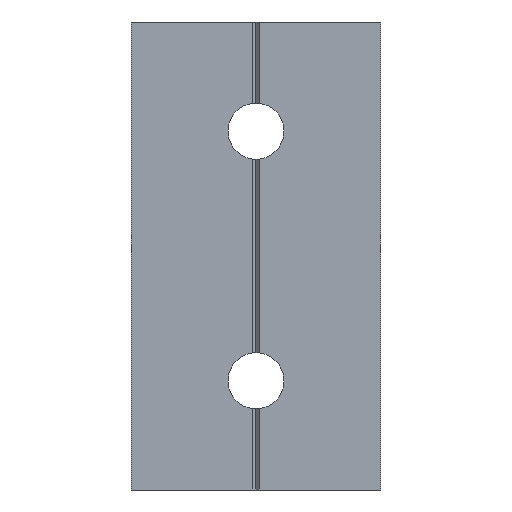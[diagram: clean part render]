
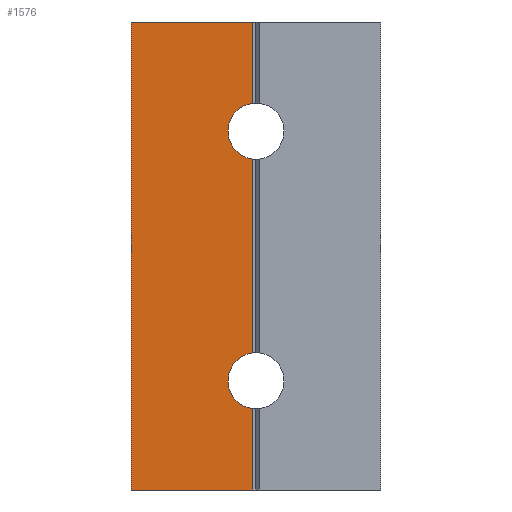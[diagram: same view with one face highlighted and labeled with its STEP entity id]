
A CAD part, left-side view. The second image highlights one B-rep face of the part: STEP entity #1576.
In plain terms, the highlighted planar face has unit normal (-1, 0, 0).
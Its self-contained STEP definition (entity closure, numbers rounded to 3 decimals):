
#1 = EDGE_CURVE ( 'NONE', #539, #1569, #1201, .T. ) ;
#20 = EDGE_CURVE ( 'NONE', #173, #957, #944, .T. ) ;
#57 = CARTESIAN_POINT ( 'NONE',  ( -20., 0.5, 25. ) ) ;
#64 = DIRECTION ( 'NONE',  ( 0., 0., -1. ) ) ;
#70 = CIRCLE ( 'NONE', #1568, 4.5 ) ;
#79 = DIRECTION ( 'NONE',  ( 0., 0., -1. ) ) ;
#96 = DIRECTION ( 'NONE',  ( 0., 0., -1. ) ) ;
#115 = ORIENTED_EDGE ( 'NONE', *, *, #1, .F. ) ;
#116 = CARTESIAN_POINT ( 'NONE',  ( -20., 0.5, 25. ) ) ;
#119 = VECTOR ( 'NONE', #64, 1000. ) ;
#123 = EDGE_LOOP ( 'NONE', ( #844, #308, #1067, #1158, #180, #561, #928, #115 ) ) ;
#126 = VERTEX_POINT ( 'NONE', #281 ) ;
#164 = DIRECTION ( 'NONE',  ( 0., 1., 0. ) ) ;
#173 = VERTEX_POINT ( 'NONE', #780 ) ;
#180 = ORIENTED_EDGE ( 'NONE', *, *, #1186, .F. ) ;
#192 = LINE ( 'NONE', #57, #1336 ) ;
#201 = VERTEX_POINT ( 'NONE', #803 ) ;
#243 = CARTESIAN_POINT ( 'NONE',  ( -20., 20., 25. ) ) ;
#252 = VERTEX_POINT ( 'NONE', #1232 ) ;
#281 = CARTESIAN_POINT ( 'NONE',  ( -20., 0.5, 25. ) ) ;
#288 = CARTESIAN_POINT ( 'NONE',  ( -20., 20., -50. ) ) ;
#308 = ORIENTED_EDGE ( 'NONE', *, *, #901, .F. ) ;
#315 = AXIS2_PLACEMENT_3D ( 'NONE', #1022, #627, #1137 ) ;
#321 = EDGE_CURVE ( 'NONE', #1235, #201, #614, .T. ) ;
#376 = DIRECTION ( 'NONE',  ( 0., -1., 0. ) ) ;
#406 = LINE ( 'NONE', #437, #119 ) ;
#437 = CARTESIAN_POINT ( 'NONE',  ( -20., 0.5, 25. ) ) ;
#539 = VERTEX_POINT ( 'NONE', #1034 ) ;
#561 = ORIENTED_EDGE ( 'NONE', *, *, #321, .F. ) ;
#601 = DIRECTION ( 'NONE',  ( 0., 0., -1. ) ) ;
#614 = LINE ( 'NONE', #116, #1350 ) ;
#627 = DIRECTION ( 'NONE',  ( 1., 0., 0. ) ) ;
#748 = CARTESIAN_POINT ( 'NONE',  ( -20., 0.5, 25. ) ) ;
#766 = CARTESIAN_POINT ( 'NONE',  ( -20., 0.5, -28.028 ) ) ;
#780 = CARTESIAN_POINT ( 'NONE',  ( -20., 20., 25. ) ) ;
#803 = CARTESIAN_POINT ( 'NONE',  ( -20., 0.5, -50. ) ) ;
#831 = VECTOR ( 'NONE', #1333, 1000. ) ;
#844 = ORIENTED_EDGE ( 'NONE', *, *, #1285, .T. ) ;
#886 = VECTOR ( 'NONE', #164, 1000. ) ;
#895 = FACE_OUTER_BOUND ( 'NONE', #123, .T. ) ;
#901 = EDGE_CURVE ( 'NONE', #126, #252, #406, .T. ) ;
#926 = CARTESIAN_POINT ( 'NONE',  ( -20., 0., 7.5 ) ) ;
#928 = ORIENTED_EDGE ( 'NONE', *, *, #1112, .T. ) ;
#944 = LINE ( 'NONE', #243, #985 ) ;
#957 = VERTEX_POINT ( 'NONE', #288 ) ;
#985 = VECTOR ( 'NONE', #96, 1000. ) ;
#1011 = LINE ( 'NONE', #1277, #886 ) ;
#1018 = AXIS2_PLACEMENT_3D ( 'NONE', #748, #1249, #376 ) ;
#1022 = CARTESIAN_POINT ( 'NONE',  ( -20., 0., -32.5 ) ) ;
#1034 = CARTESIAN_POINT ( 'NONE',  ( -20., 0.5, 3.028 ) ) ;
#1067 = ORIENTED_EDGE ( 'NONE', *, *, #1233, .T. ) ;
#1084 = CARTESIAN_POINT ( 'NONE',  ( -20., 0.5, 25. ) ) ;
#1112 = EDGE_CURVE ( 'NONE', #1235, #1569, #1384, .T. ) ;
#1137 = DIRECTION ( 'NONE',  ( 0., 0., -1. ) ) ;
#1158 = ORIENTED_EDGE ( 'NONE', *, *, #20, .T. ) ;
#1171 = CARTESIAN_POINT ( 'NONE',  ( -20., 0.5, -36.972 ) ) ;
#1186 = EDGE_CURVE ( 'NONE', #201, #957, #1011, .T. ) ;
#1188 = DIRECTION ( 'NONE',  ( 1., 0., 0. ) ) ;
#1201 = LINE ( 'NONE', #1084, #831 ) ;
#1232 = CARTESIAN_POINT ( 'NONE',  ( -20., 0.5, 11.972 ) ) ;
#1233 = EDGE_CURVE ( 'NONE', #126, #173, #192, .T. ) ;
#1235 = VERTEX_POINT ( 'NONE', #1171 ) ;
#1249 = DIRECTION ( 'NONE',  ( -1., 0., 0. ) ) ;
#1277 = CARTESIAN_POINT ( 'NONE',  ( -20., 0.5, -50. ) ) ;
#1285 = EDGE_CURVE ( 'NONE', #539, #252, #70, .T. ) ;
#1333 = DIRECTION ( 'NONE',  ( 0., 0., -1. ) ) ;
#1336 = VECTOR ( 'NONE', #1447, 1000. ) ;
#1350 = VECTOR ( 'NONE', #601, 1000. ) ;
#1384 = CIRCLE ( 'NONE', #315, 4.5 ) ;
#1395 = PLANE ( 'NONE',  #1018 ) ;
#1447 = DIRECTION ( 'NONE',  ( 0., 1., 0. ) ) ;
#1568 = AXIS2_PLACEMENT_3D ( 'NONE', #926, #1188, #79 ) ;
#1569 = VERTEX_POINT ( 'NONE', #766 ) ;
#1576 = ADVANCED_FACE ( 'NONE', ( #895 ), #1395, .T. ) ;
